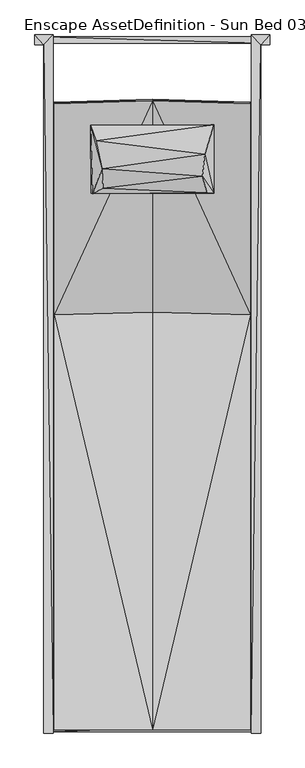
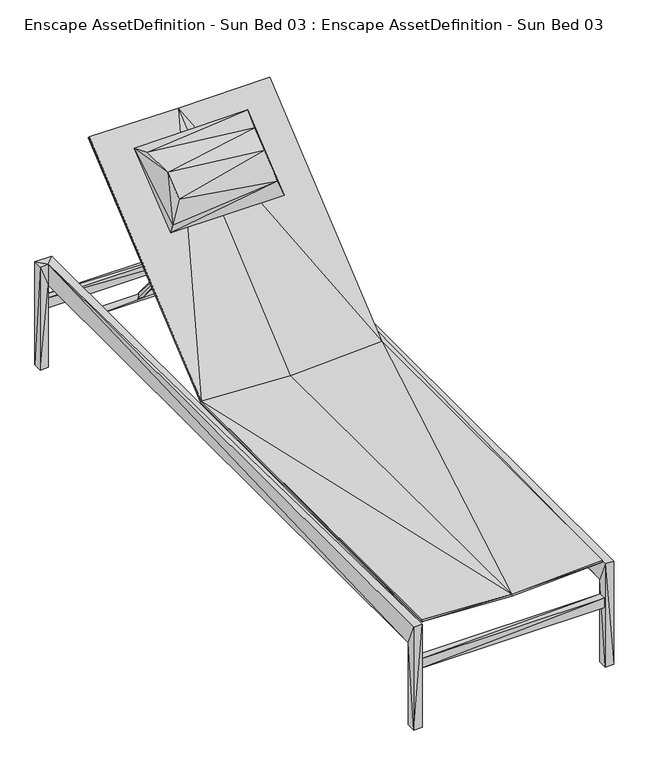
"""IFC4 building model written with IfcOpenShell, lengths in millimetres: geographic element geometry, Enscape AssetDefinition - Sun Bed 03 : Enscape AssetDefinition - Sun Bed 03."""

from ifc_helpers import new_model, si_unit, origin, place, context, project, spatial, faceted_brep, source, transform, mapped, element, save


def enscape_assetdefinition_sun_bed_03_enscape_assetdefinition_cf905068(model_context):
    return source(origin(), model_context, "Body", "Brep", [
        faceted_brep([(-311.475426, -1073.2604265, 341.5631652), (-311.475426, -1043.5700417, 273.2496858), (-311.475426, -1073.2604265, 2.6986629), (-311.475426, 894.6336508, 341.5631652), (-311.475426, 894.6336508, 273.2496858), (-311.475426, -1043.5700417, 2.6986629), (-284.1426432, -1043.5700417, 273.2496858), (-284.1426432, -1073.2604265, 2.6986629), (-284.1426432, -1073.2604265, 341.5631652), (-284.1426432, 923.1418967, 341.5631652), (-284.1426432, -1043.5700417, 2.6986629), (-284.1426432, 923.1418967, 273.2496858), (-311.475426, 923.1418967, 273.2496858), (-336.792618, 923.1418967, 341.5631652), (-311.475426, 894.6336508, 2.6986629), (-311.475426, 923.1418967, 2.6986629), (-336.792618, 923.1418967, 2.6986629), (-336.792618, 894.6336508, 341.5631652), (-336.792618, 894.6336508, 2.6986629)], [[[0, 1, 2]], [[1, 0, 3]], [[1, 3, 4]], [[2, 1, 5]], [[6, 5, 1]], [[6, 1, 4]], [[7, 8, 2]], [[2, 5, 7]], [[2, 8, 0]], [[8, 3, 0]], [[8, 6, 9]], [[8, 9, 3]], [[6, 8, 7]], [[10, 5, 6]], [[11, 6, 4]], [[9, 6, 11]], [[6, 7, 10]], [[7, 5, 10]], [[12, 9, 11]], [[12, 13, 9]], [[3, 9, 13]], [[11, 4, 12]], [[4, 14, 12]], [[12, 14, 15]], [[12, 15, 16]], [[12, 16, 13]], [[16, 17, 13]], [[3, 13, 17]], [[15, 14, 16]], [[18, 17, 16]], [[16, 14, 18]], [[4, 18, 14]], [[18, 4, 17]], [[17, 4, 3]]]),
        faceted_brep([(310.8159006, -1043.5700417, 273.2496858), (310.8159006, -1073.2604265, 2.6986629), (310.8159006, -1043.5700417, 2.6986629), (283.4831178, -1073.2604265, 2.6986629), (283.4831178, -1073.2604265, 341.5631652), (310.8159006, -1073.2604265, 341.5631652), (283.4831178, -1043.5700417, 2.6986629), (283.4831178, -1043.5700417, 273.2496858), (310.8159006, 894.6336508, 273.2496858), (310.8159006, 894.6336508, 341.5631652), (336.1330926, 894.6336508, 341.5631652), (336.1330926, 923.1418967, 341.5631652), (283.4831178, 923.1418967, 341.5631652), (336.1330926, 894.6336508, 2.6986629), (336.1330926, 923.1418967, 2.6986629), (310.8159006, 923.1418967, 273.2496858), (283.4831178, 923.1418967, 273.2496858), (310.8159006, 894.6336508, 2.6986629), (310.8159006, 923.1418967, 2.6986629)], [[[0, 1, 2]], [[3, 1, 4]], [[1, 3, 2]], [[0, 5, 1]], [[4, 1, 5]], [[6, 7, 2]], [[2, 7, 0]], [[2, 3, 6]], [[0, 8, 9]], [[0, 9, 5]], [[7, 8, 0]], [[9, 4, 5]], [[8, 10, 9]], [[11, 12, 9]], [[9, 12, 4]], [[11, 9, 10]], [[13, 14, 10]], [[8, 13, 10]], [[10, 14, 11]], [[11, 15, 12]], [[15, 11, 14]], [[7, 4, 12]], [[7, 12, 16]], [[12, 15, 16]], [[8, 15, 17]], [[17, 15, 18]], [[16, 15, 8]], [[15, 14, 18]], [[18, 14, 17]], [[17, 14, 13]], [[13, 8, 17]], [[7, 16, 8]], [[4, 7, 3]], [[3, 7, 6]]]),
        faceted_brep([(-285.987705, -1047.0913649, 196.0907876), (-285.987705, -1070.1198578, 196.0907876), (-285.987705, -1047.0913649, 227.3799926), (285.3273153, -1070.1198578, 196.0907876), (285.3273153, -1070.1198578, 227.3799926), (285.3273153, -1047.0913649, 227.3799926), (-285.987705, -1070.1198578, 227.3799926), (285.3273153, -1047.0913649, 196.0907876)], [[[0, 1, 2]], [[3, 4, 1]], [[4, 5, 6]], [[5, 7, 2]], [[7, 5, 3]], [[7, 3, 0]], [[2, 1, 6]], [[1, 4, 6]], [[6, 5, 2]], [[2, 7, 0]], [[3, 5, 4]], [[0, 3, 1]]]),
        faceted_brep([(-281.4221382, -1063.505888, 342.7554071), (-281.464994, 125.768438, 342.7427709), (-0.3301913, -1063.505888, 329.6863735), (-0.3301913, 132.2470903, 324.2865205), (-0.3301913, 739.0295267, 837.3677135), (-281.0617089, 123.4344244, 349.1768837), (-281.4137638, 731.0477495, 846.9499946), (-281.0617089, -1063.4907484, 349.1861224), (-0.3301913, -1063.4907484, 336.1381292), (-281.0617089, 726.9124389, 851.8759608), (-0.3301913, 734.8823547, 842.3088193), (-0.3301913, 129.9088597, 330.7441771), (280.4013193, 123.4344244, 349.1768837), (280.4013193, 726.9124389, 851.8759608), (280.7533741, 731.0477495, 846.9499946), (280.4013193, -1063.4907484, 349.1861224), (280.7617486, -1063.505888, 342.7554071), (280.8046043, 125.768438, 342.7427709)], [[[0, 1, 2]], [[3, 1, 4]], [[1, 0, 5]], [[2, 1, 3]], [[4, 1, 6]], [[5, 6, 1]], [[7, 0, 8]], [[8, 0, 2]], [[5, 0, 7]], [[7, 8, 5]], [[9, 5, 10]], [[9, 6, 5]], [[5, 8, 11]], [[10, 5, 11]], [[4, 6, 10]], [[10, 6, 9]], [[11, 12, 10]], [[13, 14, 10]], [[10, 12, 13]], [[10, 14, 4]], [[8, 12, 11]], [[15, 12, 8]], [[15, 16, 12]], [[17, 14, 12]], [[12, 16, 17]], [[12, 14, 13]], [[14, 17, 4]], [[16, 2, 17]], [[17, 2, 3]], [[4, 17, 3]], [[2, 16, 8]], [[8, 16, 15]]]),
        faceted_brep([(276.5927613, 698.402524, 304.8514426), (276.5927613, 688.8194084, 288.253665), (276.5927613, 707.9848051, 288.253665), (-277.2523463, 698.402524, 304.8514426), (-277.2523463, 707.9856396, 288.253665), (-277.2523463, 688.8194084, 288.253665)], [[[0, 1, 2]], [[3, 4, 5]], [[1, 0, 5]], [[0, 2, 3]], [[4, 2, 5]], [[5, 0, 3]], [[3, 2, 4]], [[5, 2, 1]]]),
        faceted_brep([(-149.9707103, 446.7454851, 591.1458135), (-133.8795573, 446.7454851, 591.1458135), (-141.9251412, 457.4897289, 600.0205874), (-133.8795573, 692.2700405, 293.9156592), (-149.9707103, 692.2700405, 293.9156592), (-141.9251412, 703.0142546, 302.790463)], [[[0, 1, 2]], [[3, 4, 5]], [[1, 3, 2]], [[1, 0, 3]], [[2, 5, 0]], [[2, 3, 5]], [[3, 0, 4]], [[0, 5, 4]]]),
        faceted_brep([(141.2647516, 457.4897289, 600.0205874), (133.2191676, 446.7454851, 591.1458135), (149.31117, 446.7454851, 591.1458135), (141.2647516, 703.0142546, 302.790463), (149.31117, 692.2700405, 293.9156592), (133.2191676, 692.2700405, 293.9156592)], [[[0, 1, 2]], [[3, 4, 5]], [[1, 0, 5]], [[1, 5, 2]], [[0, 2, 3]], [[5, 0, 3]], [[2, 5, 4]], [[3, 2, 4]]]),
        faceted_brep([(-177.4673313, 664.2944813, 816.3076639), (-63.311033, 572.1535087, 715.2095437), (-175.3097475, 470.3092277, 654.9516916), (176.3095707, 665.5312777, 818.1762695), (116.8356389, 569.78333, 720.3253508), (176.6666323, 470.3840017, 655.7633281), (155.3546041, 471.108228, 707.7688575), (-170.7660407, 468.7372446, 678.4935594), (-144.7271407, 539.7426486, 801.4793396), (-161.9903445, 620.1245189, 824.6221542), (-140.9160793, 485.2341712, 744.830966), (143.4803158, 518.3600783, 785.9687805), (150.1202583, 581.5988183, 819.5146918)], [[[0, 1, 2]], [[1, 0, 3]], [[4, 5, 1]], [[1, 5, 2]], [[4, 1, 3]], [[5, 6, 2]], [[7, 0, 2]], [[2, 6, 7]], [[0, 7, 8]], [[9, 0, 8]], [[3, 0, 9]], [[7, 10, 8]], [[7, 6, 10]], [[6, 5, 11]], [[10, 6, 11]], [[8, 10, 11]], [[9, 8, 12]], [[12, 8, 11]], [[12, 3, 9]], [[11, 5, 12]], [[12, 5, 3]], [[3, 5, 4]]]),
        faceted_brep([(-313.3045137, 898.9303112, 196.0907876), (-313.3045137, 898.9303112, 227.3799926), (-313.3045137, 918.3670878, 196.0907876), (312.6449585, 918.3670878, 196.0907876), (312.6449585, 918.3670878, 227.3799926), (-313.3045137, 918.3670878, 227.3799926), (312.6449585, 898.9303112, 227.3799926), (312.6449585, 898.9303112, 196.0907876)], [[[0, 1, 2]], [[3, 2, 4]], [[4, 5, 6]], [[6, 1, 7]], [[7, 3, 6]], [[7, 0, 3]], [[2, 1, 5]], [[4, 2, 5]], [[6, 5, 1]], [[7, 1, 0]], [[6, 3, 4]], [[3, 0, 2]]]),
    ])


if __name__ == "__main__":
    model = new_model("IFC4")
    model_context = context("Model", 3, world=origin())
    ifc_project = project(units=[si_unit("LENGTHUNIT", "METRE", prefix="MILLI")], contexts=[model_context])
    site = spatial("IfcSite", under=ifc_project)
    building = spatial("IfcBuilding", under=site)
    placement = place(None, origin())
    enscape_assetdefinition_sun_bed_03_enscape_assetdefinition_shape = enscape_assetdefinition_sun_bed_03_enscape_assetdefinition_cf905068(model_context)
    element("IfcGeographicElement", 1, ObjectType="Enscape AssetDefinition - Sun Bed 03 : Enscape AssetDefinition - Sun Bed 03", at=placement, inside=building, context=model_context, shape_type="MappedRepresentation", body=[
        mapped(enscape_assetdefinition_sun_bed_03_enscape_assetdefinition_shape, transform((0.0, 0.0, 0.0), x_axis=(1.0, 0.0, 0.0), y_axis=(0.0, 1.0, 0.0), z_axis=(0.0, 0.0, 1.0))),
    ])
    save(model, "model.ifc")
